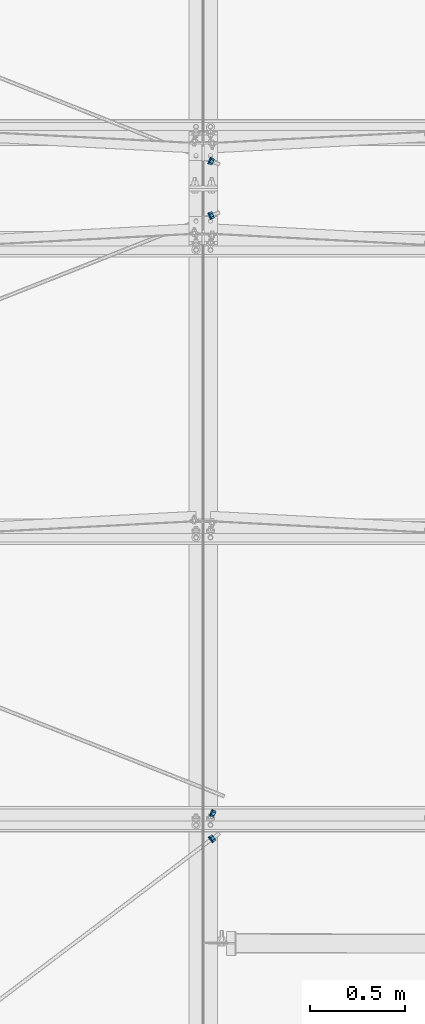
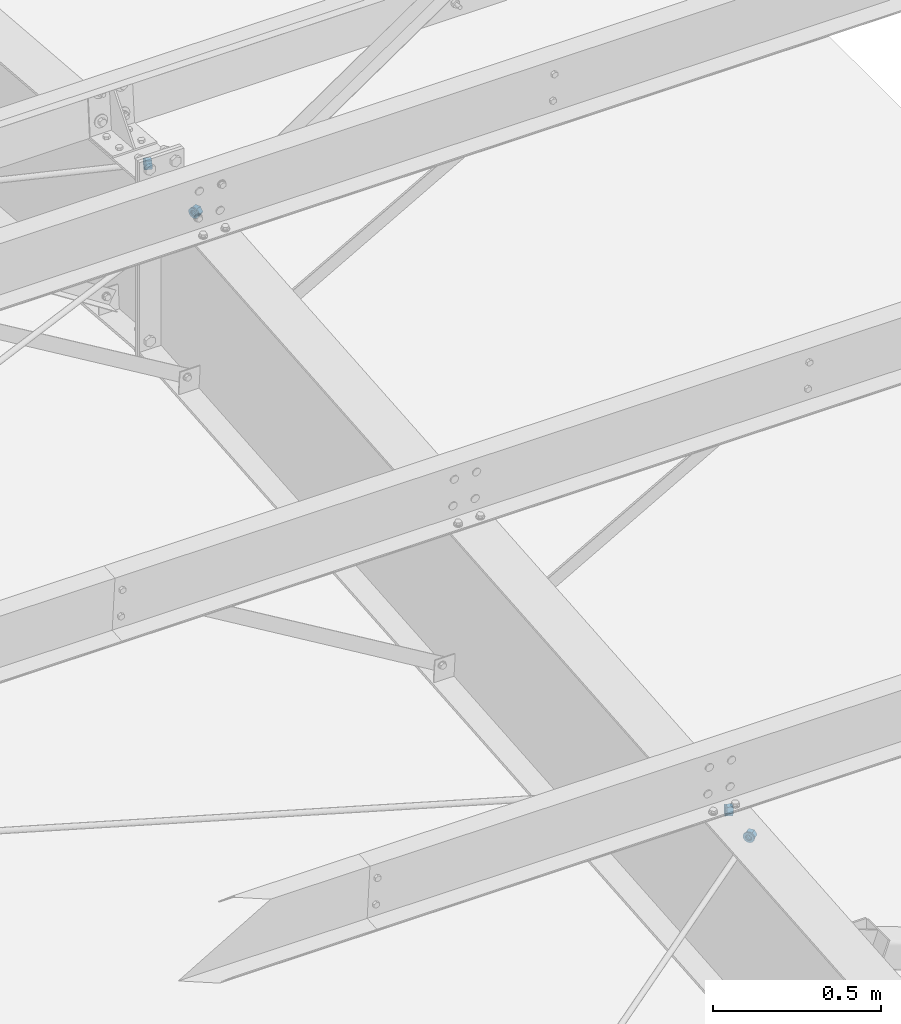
# One storey, part 45 of 185: 8 beams, 8 elements without a shape of their own.
"""IFC2X3 building model written with IfcOpenShell, lengths in millimetres."""

import ifcopenshell
import ifcopenshell.guid

model = None  # the IFC model being written
_history = None  # IfcOwnerHistory: only IFC2X3 demands one
_inside = {}  # id of a spatial element -> (the spatial element, [elements in it])
_under = {}  # id of a project, library or spatial element -> (it, [spatial elements below it])
_declared = {}  # id of a project -> (the project, [libraries it declares])
_typed = {}  # id of a type object -> (the type object, [elements of that type])
_made_of = {}  # id of a material, layer set ... -> (it, [elements and type objects made of it])


def new_model(schema):
    """Start an empty IFC model of exactly this schema.

    Asked for "IFC4X3", IfcOpenShell would pick the latest addendum, in which some entities
    have other attributes; the version numbers below select the first issue.
    IFC2X3 requires an IfcOwnerHistory on every rooted entity: one is made here for all.
    """
    global model, _history
    if schema == "IFC4X3":
        model = ifcopenshell.file(schema_version=(4, 3, 0, 0))
    else:
        model = ifcopenshell.file(schema=schema)
    _inside.clear()
    _under.clear()
    _declared.clear()
    _typed.clear()
    _made_of.clear()
    _history = None
    if model.schema == "IFC2X3":
        org = make("IfcOrganization", Name="unknown")
        user = make(
            "IfcPersonAndOrganization",
            ThePerson=make("IfcPerson", FamilyName="unknown"),
            TheOrganization=org,
        )
        app = make(
            "IfcApplication",
            ApplicationDeveloper=org,
            Version="unknown",
            ApplicationFullName="unknown",
            ApplicationIdentifier="unknown",
        )
        _history = make(
            "IfcOwnerHistory",
            OwningUser=user,
            OwningApplication=app,
            ChangeAction="ADDED",
            CreationDate=0,
        )
    return model


def make(cls, **values):
    """One entity of the class cls with the attributes given. An attribute that is None is left unset."""
    return model.create_entity(
        cls, **{name: value for name, value in values.items() if value is not None}
    )


def rooted(cls, **values):
    """An entity with a GlobalId (a new one), such as an element, a storey or a relation."""
    return make(cls, GlobalId=ifcopenshell.guid.new(), OwnerHistory=_history, **values)


def si_unit(unit_type, name, prefix=None):
    """IfcSIUnit, for example si_unit("LENGTHUNIT", "METRE", prefix="MILLI")."""
    return make("IfcSIUnit", UnitType=unit_type, Prefix=prefix, Name=name)


def assignment(units):
    """IfcUnitAssignment: the units of a project."""
    return None if units is None else make("IfcUnitAssignment", Units=units)


def point(xyz):
    """IfcCartesianPoint."""
    return None if xyz is None else make("IfcCartesianPoint", Coordinates=xyz)


def direction(xyz):
    """IfcDirection."""
    return None if xyz is None else make("IfcDirection", DirectionRatios=xyz)


def frame(location, z_axis=None, x_axis=None):
    """IfcAxis2Placement3D, a coordinate frame: its origin and axes. An axis left out is left unset."""
    return make(
        "IfcAxis2Placement3D",
        Location=point(location),
        Axis=direction(z_axis),
        RefDirection=direction(x_axis),
    )


def origin_with_axes():
    """The frame at (0, 0, 0) with the z axis (0, 0, 1) and the x axis (1, 0, 0) written out."""
    return frame((0.0, 0.0, 0.0), z_axis=(0.0, 0.0, 1.0), x_axis=(1.0, 0.0, 0.0))


def place(relative_to, where):
    """IfcLocalPlacement: puts the frame where relative to a parent placement (None: the world)."""
    return make(
        "IfcLocalPlacement", PlacementRelTo=relative_to, RelativePlacement=where
    )


def context(
    kind, dimensions, precision=None, world=None, true_north=None, identifier=None
):
    """IfcGeometricRepresentationContext, for example the 3D "Model" context."""
    return make(
        "IfcGeometricRepresentationContext",
        ContextIdentifier=identifier,
        ContextType=kind,
        CoordinateSpaceDimension=dimensions,
        Precision=precision,
        WorldCoordinateSystem=world,
        TrueNorth=true_north,
    )


def subcontext(parent, identifier, kind, view, scale=None):
    """IfcGeometricRepresentationSubContext, for example "Body" below "Model"."""
    return make(
        "IfcGeometricRepresentationSubContext",
        ContextIdentifier=identifier,
        ContextType=kind,
        ParentContext=parent,
        TargetScale=scale,
        TargetView=view,
    )


def project(units=None, contexts=None):
    """IfcProject with its units and contexts."""
    return rooted(
        "IfcProject",
        Name="project",
        RepresentationContexts=contexts,
        UnitsInContext=assignment(units),
    )


def spatial(cls, under=None, at=None, **own):
    """A site, building, storey or space (cls), placed at a placement, below another one or the project."""
    s = rooted(cls, ObjectPlacement=at, **own)
    if under is not None:
        _under.setdefault(under.id(), (under, []))[1].append(s)
    return s


def polyline(points):
    """IfcPolyline through the points."""
    return make("IfcPolyline", Points=[point(p) for p in points])


def outline(outer, holes=None, kind="AREA"):
    """IfcArbitraryClosedProfileDef: a profile drawn as a closed curve; with holes, ...WithVoids."""
    if holes is None:
        return make("IfcArbitraryClosedProfileDef", ProfileType=kind, OuterCurve=outer)
    return make(
        "IfcArbitraryProfileDefWithVoids",
        ProfileType=kind,
        OuterCurve=outer,
        InnerCurves=holes,
    )


def extrude(swept, where, along, depth):
    """IfcExtrudedAreaSolid: the profile swept, set in the frame where, extruded along a direction by depth."""
    return make(
        "IfcExtrudedAreaSolid",
        SweptArea=swept,
        Position=where,
        ExtrudedDirection=direction(along),
        Depth=depth,
    )


def shape(context_of_items, identifier, shape_type, items):
    """IfcShapeRepresentation: the items that make up one representation, for example the "Body"."""
    return make(
        "IfcShapeRepresentation",
        ContextOfItems=context_of_items,
        RepresentationIdentifier=identifier,
        RepresentationType=shape_type,
        Items=items,
    )


def material(Name=None, Category=None):
    """IfcMaterial."""
    return make("IfcMaterial", Name=Name, Category=Category)


def made_of(thing, what):
    """Note that an element or type object is made of a material, layer set ...; save() writes the relation."""
    if what is not None:
        _made_of.setdefault(what.id(), (what, []))[1].append(thing)
    return thing


def type_object(cls, material=None, **own):
    """A type object (cls), such as IfcWallType, which elements share."""
    return made_of(rooted(cls, **own), material)


def element(
    cls,
    number,
    at=None,
    inside=None,
    cuts=None,
    type_object=None,
    material=None,
    context=None,
    identifier="Body",
    shape_type=None,
    held_by="IfcProductDefinitionShape",
    body=None,
    shapes=None,
    **own,
):
    """One element of the class cls, such as IfcWall. Its Tag is "e" and its number.

    at: its placement. inside: the storey or other place that contains it. cuts: it is an
    opening in that element (IfcRelVoidsElement). A single representation is given by context,
    identifier, shape_type and body (its items); several are given by shapes. held_by: the class
    of the entity that holds the representations. save() writes the other relations.
    """
    e = rooted(cls, Tag="e%d" % number, ObjectPlacement=at, **own)
    if body is not None:
        shapes = [shape(context, identifier, shape_type, body)]
    if shapes is not None:
        e.Representation = make(held_by, Representations=shapes)
    if inside is not None:
        _inside.setdefault(inside.id(), (inside, []))[1].append(e)
    if cuts is not None:
        rooted(
            "IfcRelVoidsElement", RelatingBuildingElement=cuts, RelatedOpeningElement=e
        )
    if type_object is not None:
        _typed.setdefault(type_object.id(), (type_object, []))[1].append(e)
    return made_of(e, material)


def aggregate(whole, parts):
    """IfcRelAggregates: a whole, such as a stair, and the parts it consists of."""
    return rooted("IfcRelAggregates", RelatingObject=whole, RelatedObjects=parts)


def save(model, path):
    """Write the relations noted so far, then the file.

    IfcRelAggregates (storeys below a building ...), IfcRelContainedInSpatialStructure (elements
    in a storey), IfcRelDefinesByType, IfcRelAssociatesMaterial and IfcRelDeclares: one each for
    every whole, place, type object, material and project.
    """
    for whole, parts in _under.values():
        aggregate(whole, parts)
    for where, things in _inside.values():
        rooted(
            "IfcRelContainedInSpatialStructure",
            RelatedElements=things,
            RelatingStructure=where,
        )
    for kind, things in _typed.values():
        rooted("IfcRelDefinesByType", RelatedObjects=things, RelatingType=kind)
    for what, things in _made_of.values():
        rooted("IfcRelAssociatesMaterial", RelatedObjects=things, RelatingMaterial=what)
    for by, libraries in _declared.values():
        rooted("IfcRelDeclares", RelatingContext=by, RelatedDefinitions=libraries)
    model.write(path)


model = new_model("IFC2X3")

# Units and contexts
model_context = context("Model", 3, precision=1e-05, world=origin_with_axes())
body_context = subcontext(model_context, "Body", "Model", "MODEL_VIEW")
ifc_project = project(units=[si_unit("LENGTHUNIT", "METRE", prefix="MILLI"), si_unit("AREAUNIT", "SQUARE_METRE"), si_unit("VOLUMEUNIT", "CUBIC_METRE"), si_unit("MASSUNIT", "GRAM", prefix="KILO"), si_unit("TIMEUNIT", "SECOND"), si_unit("PLANEANGLEUNIT", "RADIAN"), si_unit("SOLIDANGLEUNIT", "STERADIAN"), si_unit("THERMODYNAMICTEMPERATUREUNIT", "DEGREE_CELSIUS"), si_unit("LUMINOUSINTENSITYUNIT", "LUMEN")], contexts=[model_context])

# Site, building, storey
site_placement = place(None, origin_with_axes())
site = spatial("IfcSite", under=ifc_project, at=site_placement, Name="Undefined", CompositionType="ELEMENT")
building_placement = place(site_placement, origin_with_axes())
building = spatial("IfcBuilding", under=site, at=building_placement, Name="Undefined", CompositionType="ELEMENT")
storey_placement = place(building_placement, origin_with_axes())
storey = spatial("IfcBuildingStorey", under=building, at=storey_placement, Name="Undefined", CompositionType="ELEMENT", Elevation=0.0)

# Assembly, beam
assembly_1_placement = place(storey_placement, origin_with_axes())
assembly_1 = element("IfcElementAssembly", 1, at=assembly_1_placement, inside=storey, Name="Steel Assembly", AssemblyPlace="NOTDEFINED", PredefinedType="RIGID_FRAME")
ifc_material = material(Name="STEEL/55")
beam_type_1 = type_object("IfcBeamType", Name="3/4_HEAVY_HEX_NUT", PredefinedType="NOTDEFINED")
beam_1_placement = place(assembly_1_placement, frame((37754.2394819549, 16147.9208032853, 7154.48176374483), z_axis=(0.0290100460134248, -0.0124663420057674, -0.999501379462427), x_axis=(0.924920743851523, -0.378846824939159, 0.0315705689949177)))
beam_1 = element("IfcBeam", 2, at=beam_1_placement, type_object=beam_type_1, material=ifc_material, Name="3/4 H HEX NUT A563", ObjectType="3/4_HEAVY_HEX_NUT", context=body_context, shape_type="SweptSolid", body=[
    extrude(outline(polyline([(9.13000011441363, -15.810000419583), (-9.13000011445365, -15.810000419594), (-18.2600002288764, 1.54614099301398e-11), (-9.13000011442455, 15.8100004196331), (9.13000011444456, 15.8100004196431), (18.2600002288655, 3.36513039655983e-11), (9.13000011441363, -15.810000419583)]), holes=[polyline([(-8.06850066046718, 6.43441456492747), (-10.061255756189, 2.29641597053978), (-10.0612557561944, -2.29641597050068), (-8.06850066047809, -6.43441456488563), (-4.47768005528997, -9.29799844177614), (-1.09139364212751e-11, -10.3199996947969), (4.47768005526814, -9.29799844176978), (8.0685006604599, -6.43441456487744), (10.0612557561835, -2.29641597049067), (10.0612557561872, 2.2964159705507), (8.06850066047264, 6.43441456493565), (4.47768005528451, 9.29799844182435), (7.27595761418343e-12, 10.319999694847), (-4.47768005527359, 9.2979984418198), (-8.06850066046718, 6.43441456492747)])]), frame((19.0500000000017, 0.0, 2.58175642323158e-19), z_axis=(-1.0, 0.0, 0.0), x_axis=(0.0, -1.0, 0.0)), (0.0, 0.0, 1.0), 19.0),
])
aggregate(assembly_1, [beam_1])

assembly_2_placement = place(storey_placement, origin_with_axes())
assembly_2 = element("IfcElementAssembly", 3, at=assembly_2_placement, inside=storey, Name="Steel Assembly", AssemblyPlace="NOTDEFINED", PredefinedType="RIGID_FRAME")
beam_2_placement = place(assembly_2_placement, frame((37763.0492786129, 12702.4217448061, 6891.6769740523), z_axis=(-0.0292556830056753, 0.0118674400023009, -0.999501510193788), x_axis=(0.924919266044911, -0.378850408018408, -0.0315708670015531)))
beam_2 = element("IfcBeam", 4, at=beam_2_placement, type_object=beam_type_1, material=ifc_material, Name="3/4 H HEX NUT A563", ObjectType="3/4_HEAVY_HEX_NUT", context=body_context, shape_type="SweptSolid", body=[
    extrude(outline(polyline([(9.13000011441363, -15.810000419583), (-9.13000011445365, -15.810000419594), (-18.2600002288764, 1.54614099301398e-11), (-9.13000011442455, 15.8100004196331), (9.13000011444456, 15.8100004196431), (18.2600002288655, 3.36513039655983e-11), (9.13000011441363, -15.810000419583)]), holes=[polyline([(-8.06850066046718, 6.43441456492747), (-10.061255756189, 2.29641597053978), (-10.0612557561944, -2.29641597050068), (-8.06850066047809, -6.43441456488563), (-4.47768005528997, -9.29799844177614), (-1.09139364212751e-11, -10.3199996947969), (4.47768005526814, -9.29799844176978), (8.0685006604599, -6.43441456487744), (10.0612557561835, -2.29641597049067), (10.0612557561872, 2.2964159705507), (8.06850066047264, 6.43441456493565), (4.47768005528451, 9.29799844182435), (7.27595761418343e-12, 10.319999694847), (-4.47768005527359, 9.2979984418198), (-8.06850066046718, 6.43441456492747)])]), frame((19.0500000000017, 0.0, 2.58175642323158e-19), z_axis=(-1.0, 0.0, 0.0), x_axis=(0.0, -1.0, 0.0)), (0.0, 0.0, 1.0), 19.0),
])
aggregate(assembly_2, [beam_2])

assembly_3_placement = place(storey_placement, origin_with_axes())
assembly_3 = element("IfcElementAssembly", 5, at=assembly_3_placement, inside=storey, Name="Steel Assembly", AssemblyPlace="NOTDEFINED", PredefinedType="RIGID_FRAME")
beam_3_placement = place(assembly_3_placement, frame((37754.2394239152, 15856.0793380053, 7154.48177069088), z_axis=(-0.0294198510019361, -0.0114666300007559, 0.999501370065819), x_axis=(0.92491926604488, 0.378850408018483, 0.0315708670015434)))
beam_3 = element("IfcBeam", 6, at=beam_3_placement, type_object=beam_type_1, material=ifc_material, Name="3/4 H HEX NUT A563", ObjectType="3/4_HEAVY_HEX_NUT", context=body_context, shape_type="SweptSolid", body=[
    extrude(outline(polyline([(9.13000011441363, -15.810000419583), (-9.13000011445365, -15.810000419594), (-18.2600002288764, 1.54614099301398e-11), (-9.13000011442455, 15.8100004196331), (9.13000011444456, 15.8100004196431), (18.2600002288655, 3.36513039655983e-11), (9.13000011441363, -15.810000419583)]), holes=[polyline([(-8.06850066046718, 6.43441456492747), (-10.061255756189, 2.29641597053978), (-10.0612557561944, -2.29641597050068), (-8.06850066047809, -6.43441456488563), (-4.47768005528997, -9.29799844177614), (-1.09139364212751e-11, -10.3199996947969), (4.47768005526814, -9.29799844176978), (8.0685006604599, -6.43441456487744), (10.0612557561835, -2.29641597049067), (10.0612557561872, 2.2964159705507), (8.06850066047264, 6.43441456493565), (4.47768005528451, 9.29799844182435), (7.27595761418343e-12, 10.319999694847), (-4.47768005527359, 9.2979984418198), (-8.06850066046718, 6.43441456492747)])]), frame((19.0500000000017, 0.0, 2.58175642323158e-19), z_axis=(-1.0, 0.0, 0.0), x_axis=(0.0, -1.0, 0.0)), (0.0, 0.0, 1.0), 19.0),
])
aggregate(assembly_3, [beam_3])

assembly_4_placement = place(storey_placement, origin_with_axes())
assembly_4 = element("IfcElementAssembly", 7, at=assembly_4_placement, inside=storey, Name="Steel Assembly", AssemblyPlace="NOTDEFINED", PredefinedType="RIGID_FRAME")
beam_4_placement = place(assembly_4_placement, frame((37760.70894498, 12562.2463359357, 6879.99568676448), z_axis=(-0.0403834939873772, -0.0299076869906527, 0.998736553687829), x_axis=(0.796162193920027, 0.602993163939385, 0.0502494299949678)))
beam_4 = element("IfcBeam", 8, at=beam_4_placement, type_object=beam_type_1, material=ifc_material, Name="3/4 H HEX NUT A563", ObjectType="3/4_HEAVY_HEX_NUT", context=body_context, shape_type="SweptSolid", body=[
    extrude(outline(polyline([(9.13000011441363, -15.810000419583), (-9.13000011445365, -15.810000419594), (-18.2600002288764, 1.54614099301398e-11), (-9.13000011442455, 15.8100004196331), (9.13000011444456, 15.8100004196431), (18.2600002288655, 3.36513039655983e-11), (9.13000011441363, -15.810000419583)]), holes=[polyline([(-8.06850066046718, 6.43441456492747), (-10.061255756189, 2.29641597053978), (-10.0612557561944, -2.29641597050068), (-8.06850066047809, -6.43441456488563), (-4.47768005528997, -9.29799844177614), (-1.09139364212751e-11, -10.3199996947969), (4.47768005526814, -9.29799844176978), (8.0685006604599, -6.43441456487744), (10.0612557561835, -2.29641597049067), (10.0612557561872, 2.2964159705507), (8.06850066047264, 6.43441456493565), (4.47768005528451, 9.29799844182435), (7.27595761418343e-12, 10.319999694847), (-4.47768005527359, 9.2979984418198), (-8.06850066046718, 6.43441456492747)])]), frame((19.0500000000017, 0.0, 2.58175642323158e-19), z_axis=(-1.0, 0.0, 0.0), x_axis=(0.0, -1.0, 0.0)), (0.0, 0.0, 1.0), 19.0),
])
aggregate(assembly_4, [beam_4])

assembly_5_placement = place(storey_placement, origin_with_axes())
assembly_5 = element("IfcElementAssembly", 9, at=assembly_5_placement, inside=storey, Name="Steel Assembly", AssemblyPlace="NOTDEFINED", PredefinedType="RIGID_FRAME")
beam_type_2 = type_object("IfcBeamType", Name="3/4_WASHER", PredefinedType="NOTDEFINED")
beam_5_placement = place(assembly_5_placement, frame((37749.8345469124, 16149.725061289, 7154.33140890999), z_axis=(0.0290100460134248, -0.0124663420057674, -0.999501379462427), x_axis=(0.924920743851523, -0.378846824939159, 0.0315705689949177)))
beam_5 = element("IfcBeam", 10, at=beam_5_placement, type_object=beam_type_2, material=ifc_material, Name="3/4 WASHER F844", ObjectType="3/4_WASHER", context=body_context, shape_type="SweptSolid", body=[
    extrude(outline(polyline([(-11.6280845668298, -14.5811568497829), (-16.8030690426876, -8.09193156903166), (-18.649999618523, -4.54747350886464e-12), (-16.8030690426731, 8.09193156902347), (-11.6280845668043, 14.5811568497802), (-4.15001533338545, 18.1824051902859), (4.15001533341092, 18.1824051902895), (11.628084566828, 14.5811568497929), (16.8030690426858, 8.09193156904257), (18.6499996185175, 1.45519152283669e-11), (16.8030690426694, -8.09193156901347), (11.6280845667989, -14.5811568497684), (4.15001533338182, -18.182405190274), (-4.15001533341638, -18.1824051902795), (-11.6280845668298, -14.5811568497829)]), holes=[polyline([(-8.06850066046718, 6.43441456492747), (-10.061255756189, 2.29641597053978), (-10.0612557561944, -2.29641597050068), (-8.06850066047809, -6.43441456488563), (-4.47768005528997, -9.29799844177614), (-1.09139364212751e-11, -10.3199996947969), (4.47768005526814, -9.29799844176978), (8.0685006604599, -6.43441456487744), (10.0612557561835, -2.29641597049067), (10.0612557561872, 2.2964159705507), (8.06850066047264, 6.43441456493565), (4.47768005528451, 9.29799844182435), (7.27595761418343e-12, 10.319999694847), (-4.47768005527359, 9.2979984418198), (-8.06850066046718, 6.43441456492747)])]), frame((4.76250000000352, 2.6437185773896e-16, 5.6843418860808e-14), z_axis=(-1.0, 0.0, 0.0), x_axis=(0.0, -1.0, 0.0)), (0.0, 0.0, 1.0), 4.8),
])
aggregate(assembly_5, [beam_5])

assembly_6_placement = place(storey_placement, origin_with_axes())
assembly_6 = element("IfcElementAssembly", 11, at=assembly_6_placement, inside=storey, Name="Steel Assembly", AssemblyPlace="NOTDEFINED", PredefinedType="RIGID_FRAME")
beam_6_placement = place(assembly_6_placement, frame((37758.6443506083, 12704.2260198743, 6891.82733030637), z_axis=(-0.0292556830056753, 0.0118674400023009, -0.999501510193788), x_axis=(0.924919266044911, -0.378850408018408, -0.0315708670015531)))
beam_6 = element("IfcBeam", 12, at=beam_6_placement, type_object=beam_type_2, material=ifc_material, Name="3/4 WASHER F844", ObjectType="3/4_WASHER", context=body_context, shape_type="SweptSolid", body=[
    extrude(outline(polyline([(-11.6280845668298, -14.5811568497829), (-16.8030690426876, -8.09193156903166), (-18.649999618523, -4.54747350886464e-12), (-16.8030690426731, 8.09193156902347), (-11.6280845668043, 14.5811568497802), (-4.15001533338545, 18.1824051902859), (4.15001533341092, 18.1824051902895), (11.628084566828, 14.5811568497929), (16.8030690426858, 8.09193156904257), (18.6499996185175, 1.45519152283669e-11), (16.8030690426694, -8.09193156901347), (11.6280845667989, -14.5811568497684), (4.15001533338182, -18.182405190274), (-4.15001533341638, -18.1824051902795), (-11.6280845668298, -14.5811568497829)]), holes=[polyline([(-8.06850066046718, 6.43441456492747), (-10.061255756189, 2.29641597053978), (-10.0612557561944, -2.29641597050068), (-8.06850066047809, -6.43441456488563), (-4.47768005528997, -9.29799844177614), (-1.09139364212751e-11, -10.3199996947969), (4.47768005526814, -9.29799844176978), (8.0685006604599, -6.43441456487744), (10.0612557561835, -2.29641597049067), (10.0612557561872, 2.2964159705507), (8.06850066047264, 6.43441456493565), (4.47768005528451, 9.29799844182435), (7.27595761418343e-12, 10.319999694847), (-4.47768005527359, 9.2979984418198), (-8.06850066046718, 6.43441456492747)])]), frame((4.76250000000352, 2.6437185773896e-16, 5.6843418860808e-14), z_axis=(-1.0, 0.0, 0.0), x_axis=(0.0, -1.0, 0.0)), (0.0, 0.0, 1.0), 4.8),
])
aggregate(assembly_6, [beam_6])

assembly_7_placement = place(storey_placement, origin_with_axes())
assembly_7 = element("IfcElementAssembly", 13, at=assembly_7_placement, inside=storey, Name="Steel Assembly", AssemblyPlace="NOTDEFINED", PredefinedType="RIGID_FRAME")
beam_7_placement = place(assembly_7_placement, frame((37749.8344959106, 15854.2750629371, 7154.3314144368), z_axis=(-0.0294198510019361, -0.0114666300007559, 0.999501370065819), x_axis=(0.92491926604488, 0.378850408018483, 0.0315708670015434)))
beam_7 = element("IfcBeam", 14, at=beam_7_placement, type_object=beam_type_2, material=ifc_material, Name="3/4 WASHER F844", ObjectType="3/4_WASHER", context=body_context, shape_type="SweptSolid", body=[
    extrude(outline(polyline([(-11.6280845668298, -14.5811568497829), (-16.8030690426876, -8.09193156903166), (-18.649999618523, -4.54747350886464e-12), (-16.8030690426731, 8.09193156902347), (-11.6280845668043, 14.5811568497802), (-4.15001533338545, 18.1824051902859), (4.15001533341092, 18.1824051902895), (11.628084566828, 14.5811568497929), (16.8030690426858, 8.09193156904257), (18.6499996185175, 1.45519152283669e-11), (16.8030690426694, -8.09193156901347), (11.6280845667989, -14.5811568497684), (4.15001533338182, -18.182405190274), (-4.15001533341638, -18.1824051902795), (-11.6280845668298, -14.5811568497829)]), holes=[polyline([(-8.06850066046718, 6.43441456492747), (-10.061255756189, 2.29641597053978), (-10.0612557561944, -2.29641597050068), (-8.06850066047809, -6.43441456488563), (-4.47768005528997, -9.29799844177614), (-1.09139364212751e-11, -10.3199996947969), (4.47768005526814, -9.29799844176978), (8.0685006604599, -6.43441456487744), (10.0612557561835, -2.29641597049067), (10.0612557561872, 2.2964159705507), (8.06850066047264, 6.43441456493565), (4.47768005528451, 9.29799844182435), (7.27595761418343e-12, 10.319999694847), (-4.47768005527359, 9.2979984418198), (-8.06850066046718, 6.43441456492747)])]), frame((4.76250000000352, 2.6437185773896e-16, 5.6843418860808e-14), z_axis=(-1.0, 0.0, 0.0), x_axis=(0.0, -1.0, 0.0)), (0.0, 0.0, 1.0), 4.8),
])
aggregate(assembly_7, [beam_7])

assembly_8_placement = place(storey_placement, origin_with_axes())
assembly_8 = element("IfcElementAssembly", 15, at=assembly_8_placement, inside=storey, Name="Steel Assembly", AssemblyPlace="NOTDEFINED", PredefinedType="RIGID_FRAME")
beam_8_placement = place(assembly_8_placement, frame((37756.9172225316, 12559.3745809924, 6879.75637385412), z_axis=(-0.0403834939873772, -0.0299076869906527, 0.998736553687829), x_axis=(0.796162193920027, 0.602993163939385, 0.0502494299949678)))
beam_8 = element("IfcBeam", 16, at=beam_8_placement, type_object=beam_type_2, material=ifc_material, Name="3/4 WASHER F844", ObjectType="3/4_WASHER", context=body_context, shape_type="SweptSolid", body=[
    extrude(outline(polyline([(-11.6280845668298, -14.5811568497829), (-16.8030690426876, -8.09193156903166), (-18.649999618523, -4.54747350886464e-12), (-16.8030690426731, 8.09193156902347), (-11.6280845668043, 14.5811568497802), (-4.15001533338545, 18.1824051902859), (4.15001533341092, 18.1824051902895), (11.628084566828, 14.5811568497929), (16.8030690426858, 8.09193156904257), (18.6499996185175, 1.45519152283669e-11), (16.8030690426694, -8.09193156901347), (11.6280845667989, -14.5811568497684), (4.15001533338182, -18.182405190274), (-4.15001533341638, -18.1824051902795), (-11.6280845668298, -14.5811568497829)]), holes=[polyline([(-8.06850066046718, 6.43441456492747), (-10.061255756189, 2.29641597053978), (-10.0612557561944, -2.29641597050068), (-8.06850066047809, -6.43441456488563), (-4.47768005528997, -9.29799844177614), (-1.09139364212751e-11, -10.3199996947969), (4.47768005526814, -9.29799844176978), (8.0685006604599, -6.43441456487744), (10.0612557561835, -2.29641597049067), (10.0612557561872, 2.2964159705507), (8.06850066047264, 6.43441456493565), (4.47768005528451, 9.29799844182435), (7.27595761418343e-12, 10.319999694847), (-4.47768005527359, 9.2979984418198), (-8.06850066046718, 6.43441456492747)])]), frame((4.76250000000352, 2.6437185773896e-16, 5.6843418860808e-14), z_axis=(-1.0, 0.0, 0.0), x_axis=(0.0, -1.0, 0.0)), (0.0, 0.0, 1.0), 4.8),
])
aggregate(assembly_8, [beam_8])

save(model, "model.ifc")
